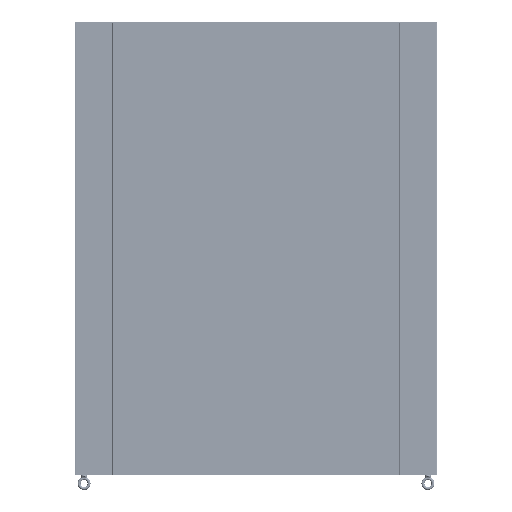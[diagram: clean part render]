
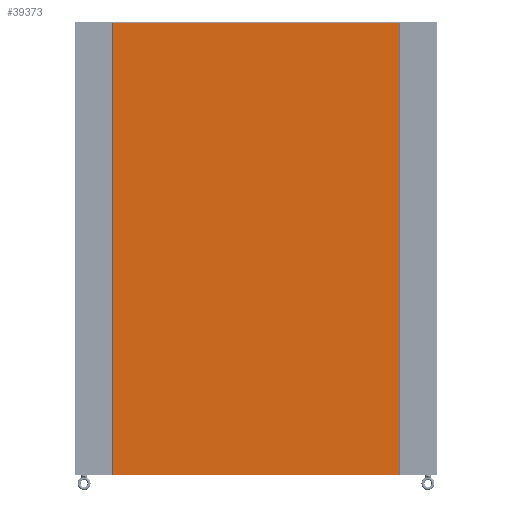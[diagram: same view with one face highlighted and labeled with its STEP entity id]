
A CAD part, left-side view. The second image highlights one B-rep face of the part: STEP entity #39373.
In plain terms, the highlighted planar face has unit normal (-1, 0, 0) as drawn and (0, 0, -1) by its records, which use the part's own axes.
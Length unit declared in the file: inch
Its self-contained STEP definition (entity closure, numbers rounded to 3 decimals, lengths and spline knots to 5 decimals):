
#38394=DIRECTION('',(0.,-1.,0.));
#38395=VECTOR('',#38394,89.792);
#38396=CARTESIAN_POINT('',(-28.311,44.896,-0.104));
#38397=LINE('',#38396,#38395);
#38584=DIRECTION('',(0.,1.,0.));
#38585=VECTOR('',#38584,89.792);
#38586=CARTESIAN_POINT('',(28.311,-44.896,-0.104));
#38587=LINE('',#38586,#38585);
#38745=DIRECTION('',(-1.,0.,0.));
#38746=VECTOR('',#38745,56.622);
#38747=CARTESIAN_POINT('',(28.311,44.896,-0.104));
#38748=LINE('',#38747,#38746);
#38752=DIRECTION('',(1.,0.,0.));
#38753=VECTOR('',#38752,56.622);
#38754=CARTESIAN_POINT('',(-28.311,-44.896,-0.104));
#38755=LINE('',#38754,#38753);
#38763=CARTESIAN_POINT('',(-28.311,-44.896,-0.104));
#38764=VERTEX_POINT('',#38763);
#38765=CARTESIAN_POINT('',(-28.311,44.896,-0.104));
#38766=VERTEX_POINT('',#38765);
#38779=CARTESIAN_POINT('',(28.311,44.896,-0.104));
#38780=VERTEX_POINT('',#38779);
#38781=CARTESIAN_POINT('',(28.311,-44.896,-0.104));
#38782=VERTEX_POINT('',#38781);
#39362=CARTESIAN_POINT('',(0.,0.,-0.104));
#39363=DIRECTION('',(0.,0.,1.));
#39364=DIRECTION('',(1.,0.,0.));
#39365=AXIS2_PLACEMENT_3D('',#39362,#39363,#39364);
#39366=PLANE('',#39365);
#39367=ORIENTED_EDGE('',*,*,#38854,.T.);
#39368=ORIENTED_EDGE('',*,*,#38899,.T.);
#39369=ORIENTED_EDGE('',*,*,#39113,.T.);
#39370=ORIENTED_EDGE('',*,*,#39157,.T.);
#39371=EDGE_LOOP('',(#39367,#39368,#39369,#39370));
#39372=FACE_OUTER_BOUND('',#39371,.F.);
#38854=EDGE_CURVE('',#38780,#38766,#38748,.T.);
#38899=EDGE_CURVE('',#38766,#38764,#38397,.T.);
#39113=EDGE_CURVE('',#38764,#38782,#38755,.T.);
#39157=EDGE_CURVE('',#38782,#38780,#38587,.T.);
#39373=ADVANCED_FACE('',(#39372),#39366,.F.);
